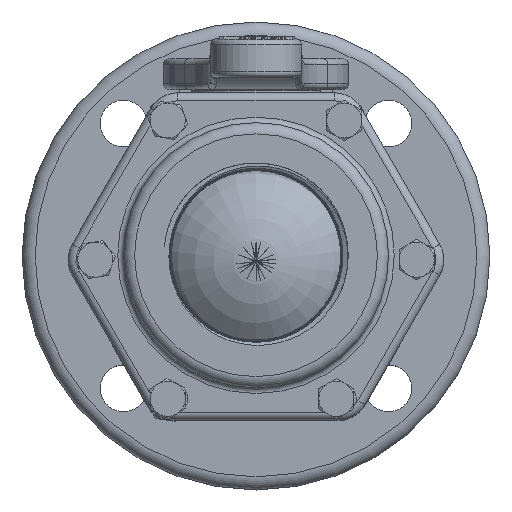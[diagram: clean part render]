
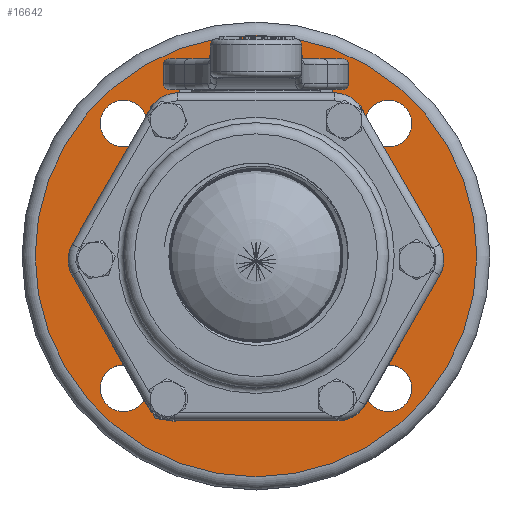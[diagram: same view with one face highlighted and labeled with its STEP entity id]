
A CAD part, top view. The second image highlights one B-rep face of the part: STEP entity #16642.
In plain terms, the highlighted planar face has unit normal (0, 0, 1) as drawn and (0, 0, -1) by its records, which use the part's own axes.
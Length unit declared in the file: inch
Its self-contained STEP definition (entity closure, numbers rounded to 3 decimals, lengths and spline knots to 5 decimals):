
#2458=PLANE('',#3434);
#2778=CIRCLE('',#3433,5.8547);
#2779=CIRCLE('',#3435,8.9916);
#2780=CIRCLE('',#3436,0.9525);
#2781=CIRCLE('',#3437,0.9525);
#2782=CIRCLE('',#3438,0.9525);
#2783=CIRCLE('',#3439,0.9525);
#3433=AXIS2_PLACEMENT_3D('',#44876,#6815,#6816);
#3434=AXIS2_PLACEMENT_3D('',#44878,#6817,$);
#3435=AXIS2_PLACEMENT_3D('',#44879,#6818,#6819);
#3436=AXIS2_PLACEMENT_3D('',#44881,#6820,#6821);
#3437=AXIS2_PLACEMENT_3D('',#44883,#6822,#6823);
#3438=AXIS2_PLACEMENT_3D('',#44885,#6824,#6825);
#3439=AXIS2_PLACEMENT_3D('',#44887,#6826,#6827);
#6815=DIRECTION('',(0.,0.,-1.));
#6816=DIRECTION('',(-5.855,0.,0.));
#6817=DIRECTION('',(0.,0.,1.));
#6818=DIRECTION('',(0.,0.,1.));
#6819=DIRECTION('',(-8.992,0.,0.));
#6820=DIRECTION('',(0.,0.,1.));
#6821=DIRECTION('',(0.,-0.953,0.));
#6822=DIRECTION('',(0.,0.,1.));
#6823=DIRECTION('',(-0.953,0.,0.));
#6824=DIRECTION('',(0.,0.,1.));
#6825=DIRECTION('',(0.,0.953,0.));
#6826=DIRECTION('',(0.,0.,1.));
#6827=DIRECTION('',(0.953,0.,0.));
#8514=VERTEX_POINT('',#44877);
#8515=VERTEX_POINT('',#44880);
#8516=VERTEX_POINT('',#44882);
#8517=VERTEX_POINT('',#44884);
#8518=VERTEX_POINT('',#44886);
#8519=VERTEX_POINT('',#44888);
#10419=EDGE_CURVE('',#8514,#8514,#2778,.T.);
#10420=EDGE_CURVE('',#8515,#8515,#2779,.T.);
#10421=EDGE_CURVE('',#8516,#8516,#2780,.T.);
#10422=EDGE_CURVE('',#8517,#8517,#2781,.T.);
#10423=EDGE_CURVE('',#8518,#8518,#2782,.T.);
#10424=EDGE_CURVE('',#8519,#8519,#2783,.T.);
#13165=ORIENTED_EDGE('',*,*,#10420,.F.);
#13166=ORIENTED_EDGE('',*,*,#10421,.T.);
#13167=ORIENTED_EDGE('',*,*,#10422,.T.);
#13168=ORIENTED_EDGE('',*,*,#10423,.T.);
#13169=ORIENTED_EDGE('',*,*,#10424,.T.);
#13170=ORIENTED_EDGE('',*,*,#10419,.F.);
#15073=EDGE_LOOP('',(#13165));
#15074=EDGE_LOOP('',(#13166));
#15075=EDGE_LOOP('',(#13167));
#15076=EDGE_LOOP('',(#13168));
#15077=EDGE_LOOP('',(#13169));
#15078=EDGE_LOOP('',(#13170));
#15901=FACE_BOUND('',#15073,.T.);
#15902=FACE_BOUND('',#15074,.T.);
#15903=FACE_BOUND('',#15075,.T.);
#15904=FACE_BOUND('',#15076,.T.);
#15905=FACE_BOUND('',#15077,.T.);
#15906=FACE_BOUND('',#15078,.T.);
#16642=ADVANCED_FACE('',(#15901,#15902,#15903,#15904,#15905,#15906),#2458,
 .F.);
#44876=CARTESIAN_POINT('',(0.,0.,
5.3848));
#44877=CARTESIAN_POINT('',(5.8547,0.,5.3848));
#44878=CARTESIAN_POINT('',(0.,0.,
5.3848));
#44879=CARTESIAN_POINT('',(0.,0.,
5.3848));
#44880=CARTESIAN_POINT('',(8.9916,0.,5.3848));
#44881=CARTESIAN_POINT('',(5.38815,-5.38815,5.3848));
#44882=CARTESIAN_POINT('',(5.38815,-4.43565,5.3848));
#44883=CARTESIAN_POINT('',(-5.38815,-5.38815,5.3848));
#44884=CARTESIAN_POINT('',(-4.43565,-5.38815,5.3848));
#44885=CARTESIAN_POINT('',(-5.38815,5.38815,5.3848));
#44886=CARTESIAN_POINT('',(-5.38815,4.43565,5.3848));
#44887=CARTESIAN_POINT('',(5.38815,5.38815,5.3848));
#44888=CARTESIAN_POINT('',(4.43565,5.38815,5.3848));
